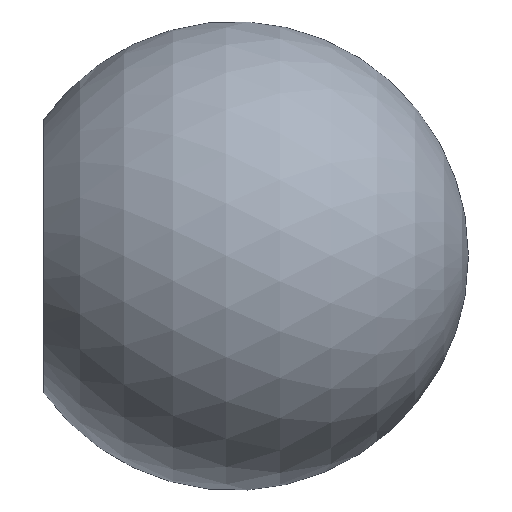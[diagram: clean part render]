
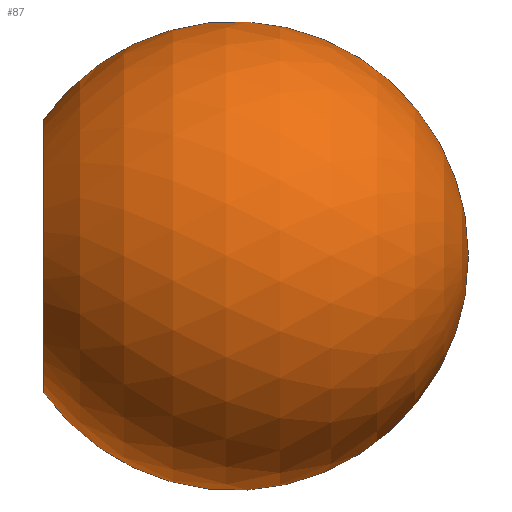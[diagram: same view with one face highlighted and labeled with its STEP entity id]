
A CAD part, top view. The second image highlights one B-rep face of the part: STEP entity #87.
In plain terms, the highlighted spherical face has radius 16 mm.
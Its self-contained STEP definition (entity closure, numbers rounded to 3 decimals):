
#2=CARTESIAN_POINT('',(13.,0.,0.));
#3=DIRECTION('',(0.,0.,1.));
#4=DIRECTION('',(1.,0.,0.));
#5=AXIS2_PLACEMENT_3D('',#2,#3,#4);
#7=CARTESIAN_POINT('',(13.,0.,0.));
#8=DIRECTION('',(0.,0.,-1.));
#9=DIRECTION('',(1.,0.,0.));
#10=AXIS2_PLACEMENT_3D('',#7,#8,#9);
#17=CARTESIAN_POINT('',(0.,0.,0.));
#18=DIRECTION('',(1.,0.,0.));
#19=DIRECTION('',(0.,1.,0.));
#20=AXIS2_PLACEMENT_3D('',#17,#18,#19);
#58=CARTESIAN_POINT('',(29.,0.,0.));
#59=CARTESIAN_POINT('',(0.,9.327,0.));
#60=VERTEX_POINT('',#58);
#61=VERTEX_POINT('',#59);
#62=CARTESIAN_POINT('',(0.,-9.327,0.));
#63=VERTEX_POINT('',#62);
#74=CARTESIAN_POINT('',(13.,0.,0.));
#75=DIRECTION('',(1.,0.,0.));
#76=DIRECTION('',(0.,-1.,0.));
#77=AXIS2_PLACEMENT_3D('',#74,#75,#76);
#78=SPHERICAL_SURFACE('',#77,16.);
#80=ORIENTED_EDGE('',*,*,#79,.F.);
#82=ORIENTED_EDGE('',*,*,#81,.T.);
#84=ORIENTED_EDGE('',*,*,#83,.F.);
#85=EDGE_LOOP('',(#80,#82,#84));
#86=FACE_OUTER_BOUND('',#85,.F.);
#87=ADVANCED_FACE('',(#86),#78,.T.);
#6=CIRCLE('',#5,16.);
#11=CIRCLE('',#10,16.);
#21=CIRCLE('',#20,9.327);
#79=EDGE_CURVE('',#60,#61,#6,.T.);
#81=EDGE_CURVE('',#60,#63,#11,.T.);
#83=EDGE_CURVE('',#61,#63,#21,.T.);
